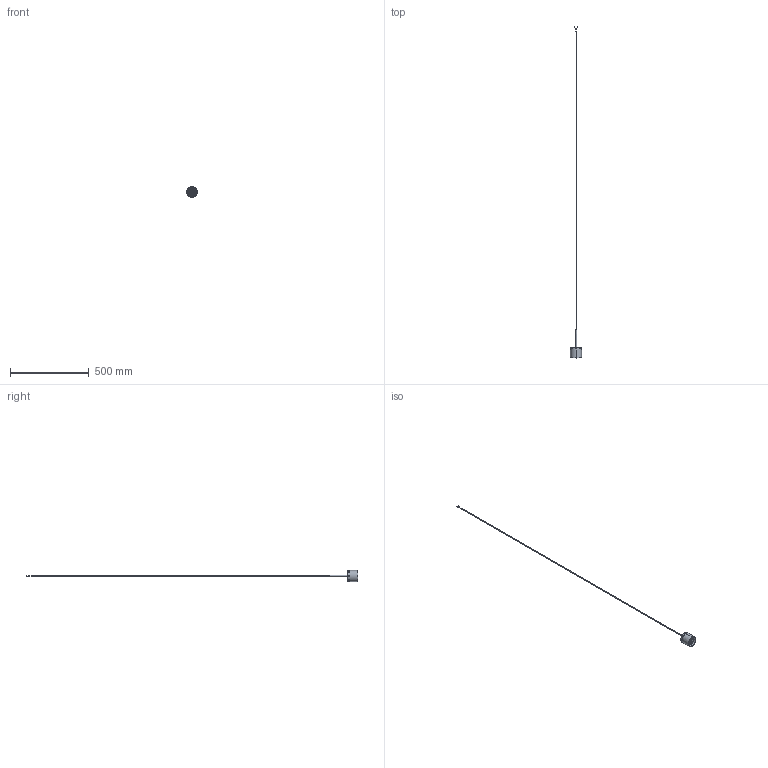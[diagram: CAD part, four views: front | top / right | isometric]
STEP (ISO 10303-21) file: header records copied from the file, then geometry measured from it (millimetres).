
FILE_DESCRIPTION (( 'STEP AP203' ), '1' );
FILE_NAME ('SYPIVXXXXXXXXXX.STEP', '2025-11-14T15:25:18', ( '' ), ( '' ), 'SwSTEP 2.0', 'SolidWorks 2024', '' );
FILE_SCHEMA (( 'CONFIG_CONTROL_DESIGN' ));
Length unit declared in the file: millimetre
Products named in the file (7): WSR1TLL01CRCEW38L2; WSCM2A0114-0700-00; WSCM2A0113-0700-00; WSCM2A0115-0700-00; SYPIVXXXXXXXXXX; CAVO NL2CN L=2000mm; WSMCDAA-10C20-0141_WSMCDAA-10C20-0141
Assembly tree (6 placements, depth 2):
  SYPIVXXXXXXXXXX
    WSCM2A0115-0700-00
    WSCM2A0113-0700-00
    WSCM2A0114-0700-00
    WSR1TLL01CRCEW38L2
    WSMCDAA-10C20-0141_WSMCDAA-10C20-0141
    CAVO NL2CN L=2000mm
Bounding box: 69.8 x 2104.25 x 69.8 mm (x, y, z)
Volume: 193490 mm3; surface area: 72215.8 mm2
Topology: 6 solids, 6 shells, 722 faces, 1714 edges, 1043 vertices
Faces by surface type: cylinder 359, bspline 153, plane 110, cone 92, torus 8
Entity records: 24695 total; most frequent: CARTESIAN_POINT 9221, ORIENTED_EDGE 3420, DIRECTION 2447, EDGE_CURVE 1710, VERTEX_POINT 1043, AXIS2_PLACEMENT_3D 1030, B_SPLINE_CURVE_WITH_KNOTS 846, EDGE_LOOP 791
